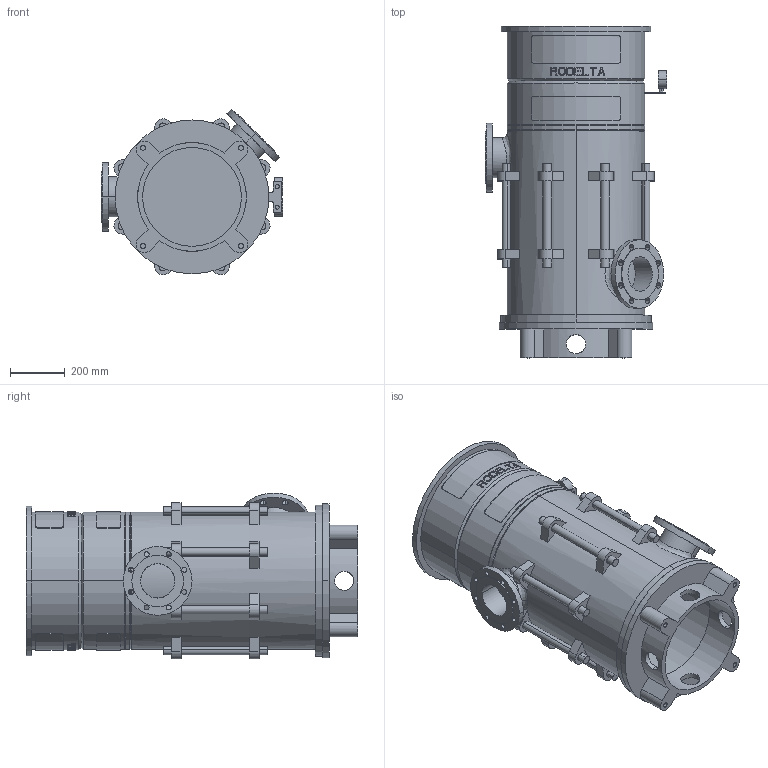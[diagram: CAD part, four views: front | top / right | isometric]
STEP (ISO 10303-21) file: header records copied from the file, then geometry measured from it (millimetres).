
FILE_DESCRIPTION((''),'2;1');
FILE_NAME('LS5_3TR_0GR_ABOVE_30KW','2023-08-08T',('Lyritlocal'),(''),'PRO/ENGINEER BY PARAMETRIC TECHNOLOGY CORPORATION, 2016360','PRO/ENGINEER BY PARAMETRIC TECHNOLOGY CORPORATION, 2016360','');
FILE_SCHEMA(('CONFIG_CONTROL_DESIGN'));
Length unit declared in the file: millimetre
Products named in the file (1): LS5_3TR_0GR_ABOVE_30KW
Bounding box: 660 x 1208 x 603.65 mm (x, y, z)
Volume: 38937249 mm3; surface area: 5500546 mm2
Topology: 3 solids, 7 shells, 672 faces, 1747 edges, 1158 vertices
Faces by surface type: plane 414, cylinder 242, cone 12, bspline 4
Entity records: 22032 total; most frequent: CARTESIAN_POINT 5588, ORIENTED_EDGE 3478, DIRECTION 3269, EDGE_CURVE 1747, AXIS2_PLACEMENT_3D 1241, VERTEX_POINT 1158, EDGE_LOOP 809, VECTOR 787
